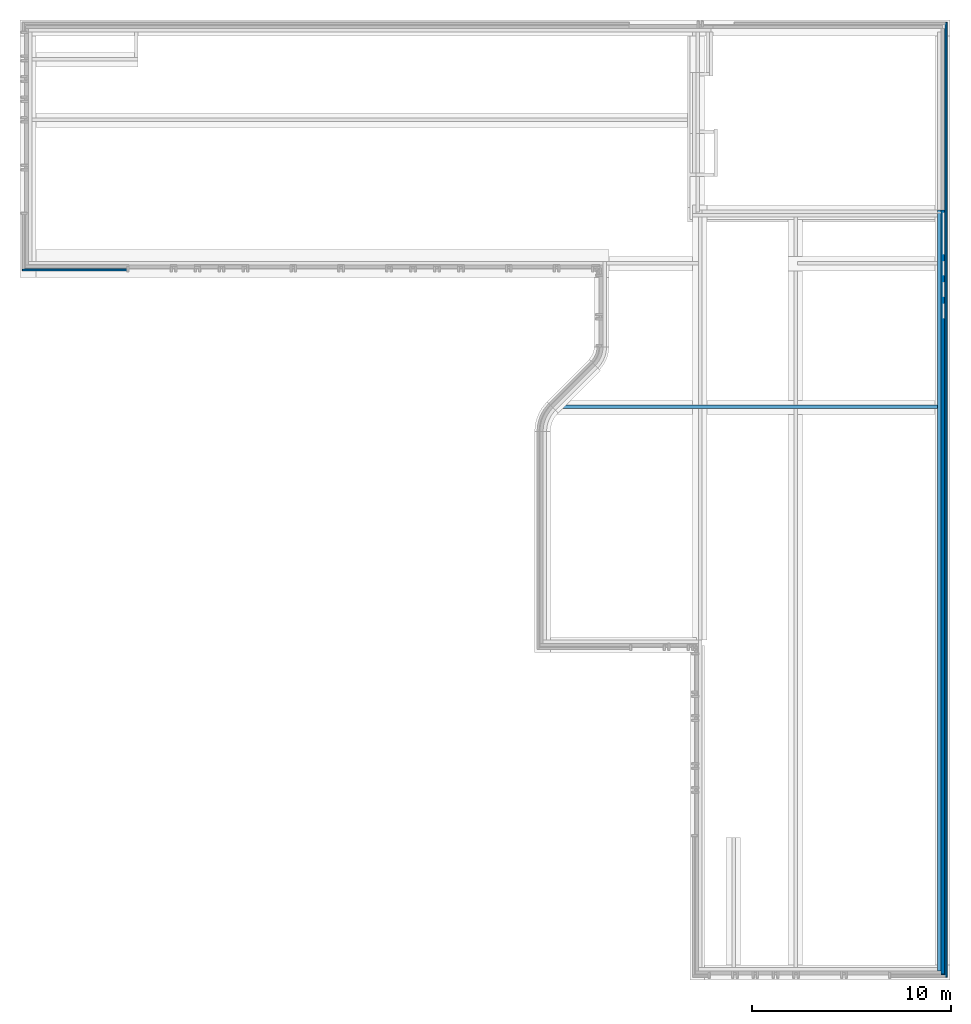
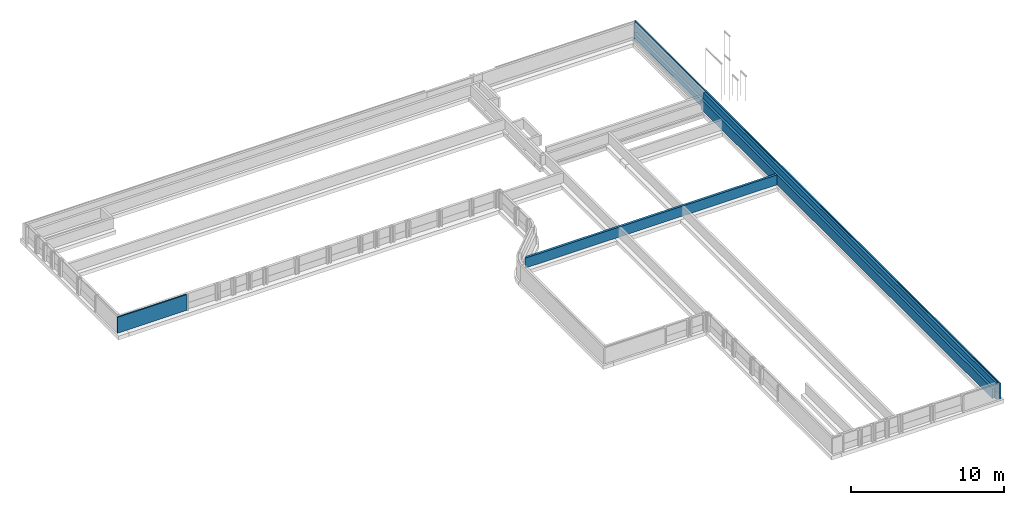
# One storey, part 5 of 15: 6 walls, 1 opening.
"""IFC2X3 building model written with IfcOpenShell, lengths in millimetres."""

from ifc_helpers import new_model, entity, si_unit, converted_unit, derived_unit, direction, frame, frame_2d, origin, place, context, subcontext, project, spatial, polyline, rectangle, outline, extrude, material, layer, layer_set, layer_usage, type_object, element, save


model = new_model("IFC2X3")

# Units and contexts
model_context = context("Model", 3, precision=0.01, world=origin(), true_north=direction((6.123031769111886e-17, 1.0)))
body_context = subcontext(model_context, "Body", "Model", "MODEL_VIEW")
ifc_project = project(units=[si_unit("LENGTHUNIT", "METRE", prefix="MILLI"), si_unit("AREAUNIT", "SQUARE_METRE"), si_unit("VOLUMEUNIT", "CUBIC_METRE"), converted_unit("PLANEANGLEUNIT", "DEGREE", entity("IfcRatioMeasure", 0.017453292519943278), si_unit("PLANEANGLEUNIT", "RADIAN"), dimensions=[0, 0, 0, 0, 0, 0, 0]), si_unit("MASSUNIT", "GRAM", prefix="KILO"), derived_unit("MASSDENSITYUNIT", [(si_unit("MASSUNIT", "GRAM", prefix="KILO"), 1), (si_unit("LENGTHUNIT", "METRE"), -3)]), derived_unit("IONCONCENTRATIONUNIT", [(si_unit("MASSUNIT", "GRAM", prefix="KILO"), 1), (si_unit("LENGTHUNIT", "METRE"), -3)]), derived_unit("MOMENTOFINERTIAUNIT", [(si_unit("LENGTHUNIT", "METRE"), 4)]), si_unit("TIMEUNIT", "SECOND"), si_unit("FREQUENCYUNIT", "HERTZ"), si_unit("THERMODYNAMICTEMPERATUREUNIT", "DEGREE_CELSIUS"), derived_unit("THERMALTRANSMITTANCEUNIT", [(si_unit("MASSUNIT", "GRAM", prefix="KILO"), 1), (si_unit("THERMODYNAMICTEMPERATUREUNIT", "KELVIN"), -1), (si_unit("TIMEUNIT", "SECOND"), -3)]), derived_unit("THERMALCONDUCTANCEUNIT", [(si_unit("MASSUNIT", "GRAM", prefix="KILO"), 1), (si_unit("THERMODYNAMICTEMPERATUREUNIT", "KELVIN"), -1), (si_unit("TIMEUNIT", "SECOND"), -3), (si_unit("LENGTHUNIT", "METRE"), 1)]), derived_unit("VOLUMETRICFLOWRATEUNIT", [(si_unit("LENGTHUNIT", "METRE"), 3), (si_unit("TIMEUNIT", "SECOND"), -1)]), derived_unit("MASSFLOWRATEUNIT", [(si_unit("MASSUNIT", "GRAM", prefix="KILO"), 1), (si_unit("TIMEUNIT", "SECOND"), -1)]), derived_unit("ROTATIONALFREQUENCYUNIT", [(si_unit("TIMEUNIT", "SECOND"), -1)]), si_unit("ELECTRICCURRENTUNIT", "AMPERE"), si_unit("ELECTRICVOLTAGEUNIT", "VOLT"), si_unit("POWERUNIT", "WATT"), si_unit("FORCEUNIT", "NEWTON", prefix="KILO"), si_unit("ILLUMINANCEUNIT", "LUX"), si_unit("LUMINOUSFLUXUNIT", "LUMEN"), si_unit("LUMINOUSINTENSITYUNIT", "CANDELA"), derived_unit("USERDEFINED", [(si_unit("MASSUNIT", "GRAM", prefix="KILO"), -1), (si_unit("LENGTHUNIT", "METRE"), -2), (si_unit("TIMEUNIT", "SECOND"), 3), (si_unit("LUMINOUSFLUXUNIT", "LUMEN"), 1)]), derived_unit("USERDEFINED", [(si_unit("MASSUNIT", "GRAM", prefix="KILO"), 1), (si_unit("TIMEUNIT", "SECOND"), -3), (si_unit("LENGTHUNIT", "METRE"), 3), (si_unit("ELECTRICCURRENTUNIT", "AMPERE"), -2)]), derived_unit("SOUNDPOWERUNIT", [(si_unit("MASSUNIT", "GRAM", prefix="KILO"), 1), (si_unit("TIMEUNIT", "SECOND"), -3), (si_unit("LENGTHUNIT", "METRE"), 2)]), derived_unit("SOUNDPRESSUREUNIT", [(si_unit("MASSUNIT", "GRAM", prefix="KILO"), 1), (si_unit("LENGTHUNIT", "METRE"), -1), (si_unit("TIMEUNIT", "SECOND"), -2)]), derived_unit("LINEARVELOCITYUNIT", [(si_unit("LENGTHUNIT", "METRE"), 1), (si_unit("TIMEUNIT", "SECOND"), -1)]), si_unit("PRESSUREUNIT", "PASCAL"), derived_unit("USERDEFINED", [(si_unit("MASSUNIT", "GRAM", prefix="KILO"), 1), (si_unit("LENGTHUNIT", "METRE"), -2), (si_unit("TIMEUNIT", "SECOND"), -2)]), derived_unit("LINEARFORCEUNIT", [(si_unit("MASSUNIT", "GRAM", prefix="KILO"), 1), (si_unit("TIMEUNIT", "SECOND"), -2)]), derived_unit("PLANARFORCEUNIT", [(si_unit("MASSUNIT", "GRAM", prefix="KILO"), 1), (si_unit("LENGTHUNIT", "METRE"), -1), (si_unit("TIMEUNIT", "SECOND"), -2)]), derived_unit("SPECIFICHEATCAPACITYUNIT", [(si_unit("THERMODYNAMICTEMPERATUREUNIT", "KELVIN"), -1), (si_unit("LENGTHUNIT", "METRE"), 2), (si_unit("TIMEUNIT", "SECOND"), -2)]), derived_unit("HEATINGVALUEUNIT", [(si_unit("LENGTHUNIT", "METRE"), 2), (si_unit("TIMEUNIT", "SECOND"), -2)]), derived_unit("VAPORPERMEABILITYUNIT", [(si_unit("LENGTHUNIT", "METRE"), -1), (si_unit("TIMEUNIT", "SECOND"), 1)]), derived_unit("DYNAMICVISCOSITYUNIT", [(si_unit("MASSUNIT", "GRAM", prefix="KILO"), 1), (si_unit("TIMEUNIT", "SECOND"), -1), (si_unit("LENGTHUNIT", "METRE"), -1)]), derived_unit("THERMALEXPANSIONCOEFFICIENTUNIT", [(si_unit("THERMODYNAMICTEMPERATUREUNIT", "KELVIN"), -1)]), derived_unit("MODULUSOFELASTICITYUNIT", [(si_unit("MASSUNIT", "GRAM", prefix="KILO"), 1), (si_unit("LENGTHUNIT", "METRE"), -1), (si_unit("TIMEUNIT", "SECOND"), -2)]), derived_unit("ISOTHERMALMOISTURECAPACITYUNIT", [(si_unit("LENGTHUNIT", "METRE"), 3), (si_unit("MASSUNIT", "GRAM", prefix="KILO"), -1)]), derived_unit("MOISTUREDIFFUSIVITYUNIT", [(si_unit("TIMEUNIT", "SECOND"), -1), (si_unit("LENGTHUNIT", "METRE"), 2)])], contexts=[model_context])

# Site, building, storey
site_placement = place(None, frame((0.0, 300.0, 0.0)))
site = spatial("IfcSite", under=ifc_project, at=site_placement, Name="<Kadastrale nummers>", CompositionType="ELEMENT")
building_placement = place(site_placement, origin())
building = spatial("IfcBuilding", under=site, at=building_placement, CompositionType="ELEMENT")
storey_placement = place(building_placement, frame((0.0, 0.0, -1570.0)))
storey = spatial("IfcBuildingStorey", under=building, at=storey_placement, Name="-1 fundering", CompositionType="ELEMENT", Elevation=-1570.0)

# Walls
ifc_material_1 = material(Name="ISR_Metselwerk")
ifc_layer_1 = layer(ifc_material_1, 100.0)
ifc_layer_set_1 = layer_set([ifc_layer_1], Name="Basic Wall:21_DAT_metselwerk_100")
ifc_layer_usage_1 = layer_usage(ifc_layer_set_1, "AXIS2", "POSITIVE", -50.0)
wall_type_1 = type_object("IfcWallType", Name="Basic Wall:21_DAT_metselwerk_100", PredefinedType="STANDARD", material=ifc_layer_set_1)
wall_1_placement = place(storey_placement, frame((48925.0, 2324.9986232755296, 300.0), z_axis=(0.0, 0.0, 1.0), x_axis=(0.0, 1.0, 0.0)))
element("IfcWallStandardCase", 1, at=wall_1_placement, inside=storey, type_object=wall_type_1, material=ifc_layer_usage_1, Name="Basic Wall:21_DAT_metselwerk_100", ObjectType="Basic Wall:21_DAT_metselwerk_100", context=body_context, shape_type="SweptSolid", body=[
    extrude(rectangle(XDim=47850.00137672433, YDim=99.9999999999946, at=frame_2d((23925.000688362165, -7.780442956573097e-13), x_axis=(-1.0, 0.0))), origin(), (0.0, 0.0, 1.0), 1270.0000000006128),
])
wall_2_placement = place(storey_placement, frame((2625.0, 37775.0, 300.0)))
element("IfcWallStandardCase", 2, at=wall_2_placement, inside=storey, type_object=wall_type_1, material=ifc_layer_usage_1, Name="Basic Wall:21_DAT_metselwerk_100", ObjectType="Basic Wall:21_DAT_metselwerk_100", context=body_context, shape_type="SweptSolid", body=[
    extrude(rectangle(XDim=5235.000000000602, YDim=100.00000000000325, at=frame_2d((2617.500000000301, -6.394884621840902e-14), x_axis=(-1.0, 0.0))), origin(), (0.0, 0.0, 1.0), 1270.0000000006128),
])

# Wall, opening
ifc_material_2 = material(Name="ISR_Gips")
ifc_layer_2 = layer(ifc_material_2, 1.0)
ifc_material_3 = material(Name="ISR_Kalkzandsteen")
ifc_layer_3 = layer(ifc_material_3, 173.0)
ifc_layer_4 = layer(ifc_material_2, 1.0)
ifc_layer_set_2 = layer_set([ifc_layer_2, ifc_layer_3, ifc_layer_4], Name="Basic Wall:28_DAT_kalkzandsteen_175mm")
ifc_layer_usage_2 = layer_usage(ifc_layer_set_2, "AXIS2", "NEGATIVE", 87.49999999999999)
wall_type_2 = type_object("IfcWallType", Name="Basic Wall:28_DAT_kalkzandsteen_175mm", PredefinedType="STANDARD", material=ifc_layer_set_2)
wall_3_placement = place(storey_placement, frame((48587.50000000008, 40775.0, 300.0), z_axis=(0.0, 0.0, 1.0), x_axis=(0.0, -1.0, 0.0)))
wall_3 = element("IfcWallStandardCase", 3, at=wall_3_placement, inside=storey, type_object=wall_type_2, material=ifc_layer_usage_2, Name="Basic Wall:28_DAT_kalkzandsteen_175mm", ObjectType="Basic Wall:28_DAT_kalkzandsteen_175mm", context=body_context, shape_type="SweptSolid", body=[
    extrude(rectangle(XDim=38150.00137672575, YDim=175.00000000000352, at=frame_2d((19075.000688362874, -4.092726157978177e-12), x_axis=(-1.0, 0.0))), origin(), (0.0, 0.0, 1.0), 800.0000000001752),
])
opening_placement = place(wall_3_placement, origin())
element("IfcOpeningElement", 4, at=opening_placement, cuts=wall_3, Name="Basic Wall:28_DAT_kalkzandsteen_175mm", ObjectType="Opening", context=body_context, shape_type="SweptSolid", body=[
    extrude(rectangle(XDim=188.00000000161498, YDim=8924.999999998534, at=frame_2d((-4.547473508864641e-12, -6.394884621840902e-14), x_axis=(0.0, 1.0))), frame((-4462.4999999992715, -239.90000000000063, 94.0), z_axis=(0.0, 1.0, 0.0), x_axis=(-1.0, 0.0, 0.0)), (0.0, 0.0, 1.0), 479.80000000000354),
])

# Walls
wall_4_placement = place(storey_placement, frame((29421.95409136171, 30900.0, 300.0)))
element("IfcWallStandardCase", 5, at=wall_4_placement, inside=storey, type_object=wall_type_2, material=ifc_layer_usage_2, Name="Basic Wall:28_DAT_kalkzandsteen_175mm", ObjectType="Basic Wall:28_DAT_kalkzandsteen_175mm", context=body_context, shape_type="SweptSolid", body=[
    extrude(outline(polyline([(19078.04590863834, -87.49999999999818), (19078.04590863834, 87.50000000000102), (12065.545908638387, 87.50000000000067), (11890.545908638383, 87.50000000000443), (7278.045908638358, 87.50000000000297), (7103.045908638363, 87.5000000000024), (175.0, 87.5000000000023), (0.0, -87.49999999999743), (7103.045908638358, -87.49999999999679), (7278.045908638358, -87.49999999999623), (11890.545908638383, -87.49999999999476), (12065.545908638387, -87.49999999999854), (19078.04590863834, -87.49999999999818)])), origin(), (0.0, 0.0, 1.0), 800.0000000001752),
])
ifc_material_4 = material(Name="ISR_Isolatie")
ifc_layer_5 = layer(ifc_material_4, 160.0)
ifc_layer_set_3 = layer_set([ifc_layer_5], Name="Basic Wall:21_DAT_isolatie minerale wol_160")
ifc_layer_usage_3 = layer_usage(ifc_layer_set_3, "AXIS2", "NEGATIVE", 80.0)
wall_type_3 = type_object("IfcWallType", Name="Basic Wall:21_DAT_isolatie minerale wol_160", PredefinedType="STANDARD", material=ifc_layer_set_3)
wall_5_placement = place(storey_placement, frame((48755.0, 40775.0, 900.0), z_axis=(0.0, 0.0, 1.0), x_axis=(0.0, -1.0, 0.0)))
element("IfcWallStandardCase", 6, at=wall_5_placement, inside=storey, type_object=wall_type_3, material=ifc_layer_usage_3, Name="Basic Wall:21_DAT_isolatie minerale wol_160", ObjectType="Basic Wall:21_DAT_isolatie minerale wol_160", context=body_context, shape_type="SweptSolid", body=[
    extrude(rectangle(XDim=38310.00137672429, YDim=159.99999999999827, at=frame_2d((19155.000688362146, 1.0231815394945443e-12), x_axis=(-1.0, 0.0))), origin(), (0.0, 0.0, 1.0), 670.0000000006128),
])
ifc_material_5 = material(Name="ISR_Speci ihwg(1)")
ifc_layer_6 = layer(ifc_material_5, 195.0)
ifc_layer_set_4 = layer_set([ifc_layer_6], Name="Basic Wall:28_DAT_ihw specie")
ifc_layer_usage_4 = layer_usage(ifc_layer_set_4, "AXIS2", "NEGATIVE", 97.5)
wall_type_4 = type_object("IfcWallType", Name="Basic Wall:28_DAT_ihw specie", PredefinedType="STANDARD", material=ifc_layer_set_4)
wall_6_placement = place(storey_placement, frame((48777.500000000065, 49880.0, 300.0), z_axis=(0.0, 0.0, 1.0), x_axis=(0.0, -1.0, 0.0)))
element("IfcWallStandardCase", 7, at=wall_6_placement, inside=storey, type_object=wall_type_4, material=ifc_layer_usage_4, Name="Basic Wall:28_DAT_ihw specie", ObjectType="Basic Wall:28_DAT_ihw specie", context=body_context, shape_type="SweptSolid", body=[
    extrude(rectangle(XDim=47455.001376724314, YDim=195.00000000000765, at=frame_2d((23727.500688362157, -1.6342482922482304e-13), x_axis=(-1.0, 0.0))), origin(), (0.0, 0.0, 1.0), 500.00000000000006),
])

save(model, "model.ifc")
